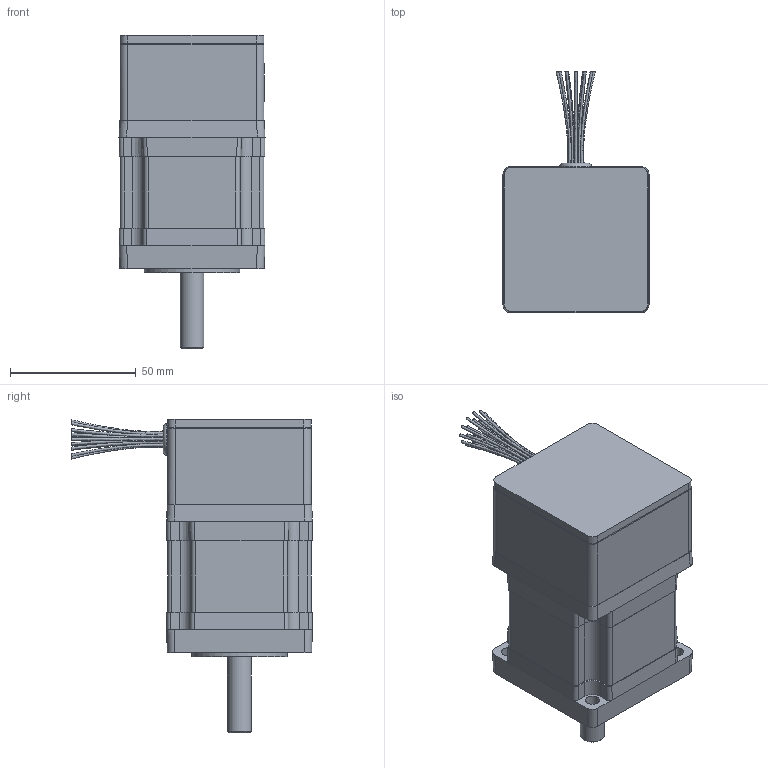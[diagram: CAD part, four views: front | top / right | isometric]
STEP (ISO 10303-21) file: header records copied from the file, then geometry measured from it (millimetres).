
FILE_DESCRIPTION((''),'2;1');
FILE_NAME('C:\CAD_work\Dummy_Modeling_Project_02-12-05\3D MODELS\BE231_FL.stp','2005-12-20T15:24:45',('jevans'),(''),'Autodesk Inventor 10','Autodesk Inventor 10','');
FILE_SCHEMA(('AUTOMOTIVE_DESIGN { 1 0 10303 214 1 1 1 1 }'));
Length unit declared in the file: inch
Products named in the file (1): BE23_FL
Bounding box: 57.95 x 95.65 x 124.36 mm (x, y, z)
Volume: 286137.8 mm3; surface area: 36703.4 mm2
Topology: 3 solids, 3 shells, 255 faces, 601 edges, 384 vertices
Faces by surface type: plane 139, cylinder 80, bspline 24, cone 8, torus 4
Full cylindrical faces by diameter (mm): 1.27 x2, 6.985 x1, 9.52 x1, 9.525 x1, 12.7 x1, 21.59 x1, 24.13 x1, 25.403 x1, 26 x1, 27.076 x1, 31.75 x3, 38.1 x1, 41.732 x1, 47.015 x1
Entity records: 9299 total; most frequent: CARTESIAN_POINT 3510, DIRECTION 1222, ORIENTED_EDGE 1118, EDGE_CURVE 559, AXIS2_PLACEMENT_3D 467, VERTEX_POINT 373, EDGE_LOOP 332, VECTOR 288
